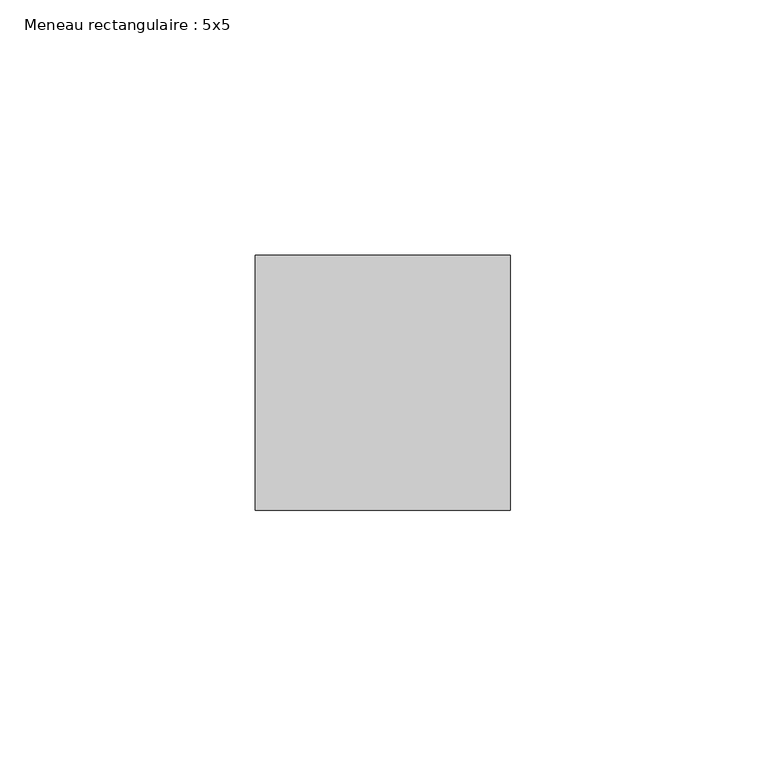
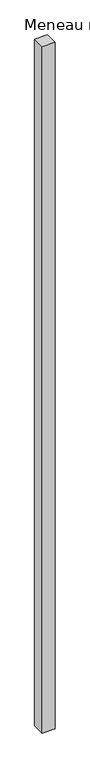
"""IFC4 building model written with IfcOpenShell, lengths in millimetres: member geometry, Meneau rectangulaire : 5x5."""

from ifc_helpers import new_model, si_unit, frame, origin, place, context, project, spatial, polyline, outline, extrude, source, transform, mapped, element, save


def meneau_rectangulaire_5x5_8becc6b3(model_context):
    return source(origin(), model_context, "Body", "SweptSolid", [
        extrude(outline(polyline([(25.0, 25.0), (25.0, -25.0), (-25.0, -25.0), (-25.0, 25.0), (25.0, 25.0)])), frame((0.0, 0.0, -2795.0), z_axis=(0.0, 0.0, 1.0), x_axis=(1.0, 0.0, 0.0)), (0.0, 0.0, 1.0), 2795.0),
    ])


if __name__ == "__main__":
    model = new_model("IFC4")
    model_context = context("Model", 3, world=origin())
    ifc_project = project(units=[si_unit("LENGTHUNIT", "METRE", prefix="MILLI")], contexts=[model_context])
    site = spatial("IfcSite", under=ifc_project)
    building = spatial("IfcBuilding", under=site)
    placement = place(None, origin())
    meneau_rectangulaire_5x5_shape = meneau_rectangulaire_5x5_8becc6b3(model_context)
    element("IfcMember", 1, ObjectType="Meneau rectangulaire : 5x5", at=placement, inside=building, context=model_context, shape_type="MappedRepresentation", body=[
        mapped(meneau_rectangulaire_5x5_shape, transform((0.0, 0.0, 0.0), x_axis=(1.0, 0.0, 0.0), y_axis=(0.0, 1.0, 0.0), z_axis=(0.0, 0.0, 1.0))),
    ])
    save(model, "model.ifc")
